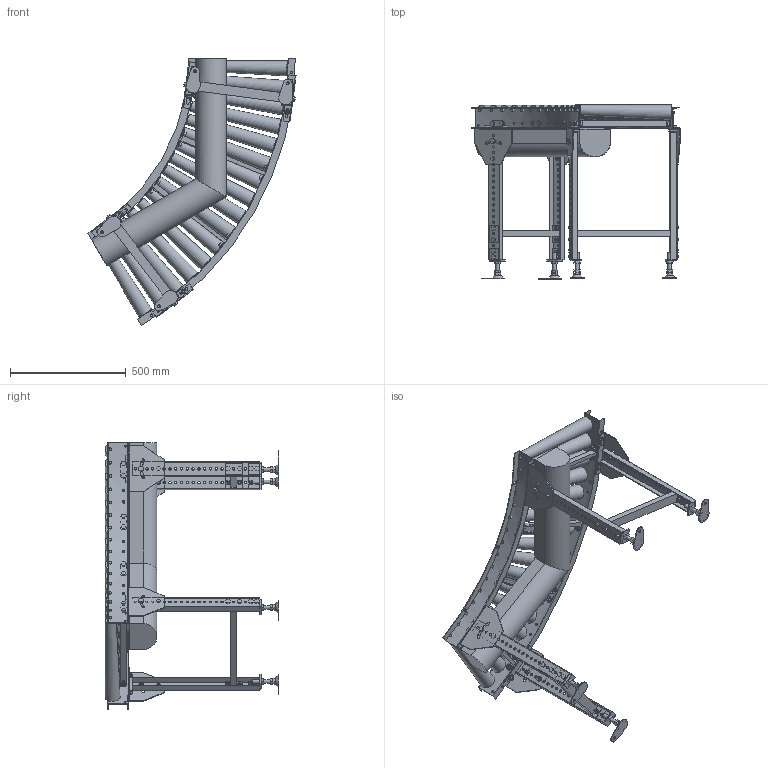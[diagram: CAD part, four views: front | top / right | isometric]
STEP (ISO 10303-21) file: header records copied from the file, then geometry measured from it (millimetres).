
FILE_DESCRIPTION( (''), '2;1');
FILE_NAME ('WEB-MCD-50-400-75-60°-C9.stp','2025-06-26T16:56:33',(''),(''),'spGate 20.6.2 (****-****-****-****)','','');
FILE_SCHEMA (('AUTOMOTIVE_DESIGN'));
Length unit declared in the file: millimetre
Products named in the file (36): WEB-MCD-50-400-75-60_-C9; TEMP_X_T-prt0; TEMP_X_T-prt1; TEMP_X_T-prt2; TEMP_X_T-prt3; TEMP_X_T-prt4; TEMP_X_T-prt5; TEMP_X_T-prt6; TEMP_X_T-prt7; TEMP_X_T-prt8; TEMP_X_T-prt9; TEMP_X_T-prt10; TEMP_X_T-prt11; TEMP_X_T-prt12; TEMP_X_T-prt13; TEMP_X_T-prt14; TEMP_X_T-prt15; TEMP_X_T-prt16; TEMP_X_T-prt17; TEMP_X_T-prt18; TEMP_X_T-prt19; TEMP_X_T-prt20; TEMP_X_T-prt21; TEMP_X_T-prt22; TEMP_X_T-prt23; TEMP_X_T-prt24; TEMP_X_T-prt25; TEMP_X_T-prt26; TEMP_X_T-prt27; TEMP_X_T-prt28; TEMP_X_T-prt29; TEMP_X_T-prt30; TEMP_X_T-prt31; TEMP_X_T-prt32; TEMP_X_T-prt33; TEMP_X_T-prt34
Assembly tree (35 placements, depth 2):
  WEB-MCD-50-400-75-60_-C9
    TEMP_X_T-prt0
    TEMP_X_T-prt1
    TEMP_X_T-prt2
    TEMP_X_T-prt3
    TEMP_X_T-prt4
    TEMP_X_T-prt5
    TEMP_X_T-prt6
    TEMP_X_T-prt7
    TEMP_X_T-prt8
    TEMP_X_T-prt9
    TEMP_X_T-prt10
    TEMP_X_T-prt11
    TEMP_X_T-prt12
    TEMP_X_T-prt13
    TEMP_X_T-prt14
    TEMP_X_T-prt15
    TEMP_X_T-prt16
    TEMP_X_T-prt17
    TEMP_X_T-prt18
    TEMP_X_T-prt19
    TEMP_X_T-prt20
    TEMP_X_T-prt21
    TEMP_X_T-prt22
    TEMP_X_T-prt23
    TEMP_X_T-prt24
    TEMP_X_T-prt25
    TEMP_X_T-prt26
    TEMP_X_T-prt27
    TEMP_X_T-prt28
    TEMP_X_T-prt29
    TEMP_X_T-prt30
    TEMP_X_T-prt31
    TEMP_X_T-prt32
    TEMP_X_T-prt33
    TEMP_X_T-prt34
Bounding box: 898.03 x 749.97 x 1151.81 mm (x, y, z)
Volume: 35060137.3 mm3; surface area: 3507154.6 mm2
Topology: 35 solids, 55 shells, 2221 faces, 5382 edges, 3476 vertices
Faces by surface type: plane 1838, cylinder 363, bspline 20
Full cylindrical faces by diameter (mm): 8.5 x4, 10 x56, 10.5 x92, 11 x14, 12 x32, 13 x4, 14 x7, 16 x4, 18.4 x40, 18.5 x8, 21 x28
Entity records: 113883 total; most frequent: CARTESIAN_POINT 15642, DIRECTION 11120, ORIENTED_EDGE 10764, COLOUR_RGB 7638, PRESENTATION_STYLE_ASSIGNMENT 7638, STYLED_ITEM 7638, EDGE_CURVE 5382, DRAUGHTING_PRE_DEFINED_CURVE_FONT 5382
